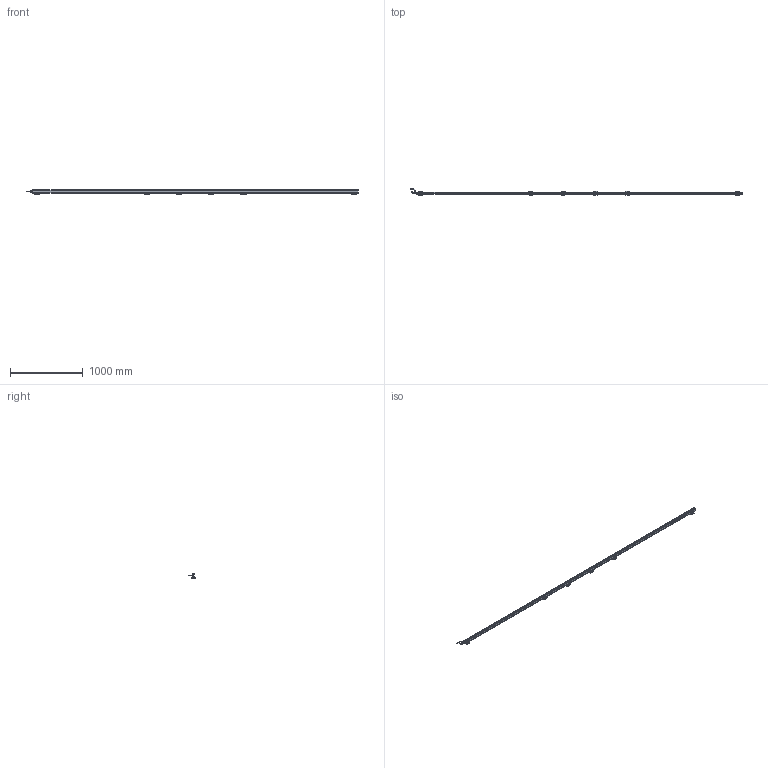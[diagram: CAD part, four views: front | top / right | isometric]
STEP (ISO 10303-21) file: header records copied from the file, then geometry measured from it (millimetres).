
FILE_DESCRIPTION(('Bauteilbeschreibung','HiCAD-Model','HiCAD-STEP-TRANSLATION','Bauteilbeschreibung'),'2;1');
FILE_NAME('PERFORMAXIQEASY_4410-4500_3D.STP','2014-03-05T13:42:16+00:00',('Konstrukteur'),('Konstrukteur Firma GmbH'),' HiCAD 2011, Step 1600.0 ','HiCAD 2011','confidential');
FILE_SCHEMA(('AUTOMOTIVE_DESIGN { 1 2 10303 214 0 1 1 1 }'));
Products named in the file (56): PERFORMAXIQEASY_4410_4500_3D; A_PERFORMAX IQ EASY 4410_4500; A_PERFORMAX IQ EASY SPEED; A_CAP DE; A_CAP CE_5; LED_2C_3MM; LED02C03MM; A519020315_CONNECTOR APPLIANCE; A_INSERT; A_CONTACTS; A_HOUSING; A_PROFILE; A_POTTING; PIN; PIN0; A532000100_BRACKET BARS_ MOUNT; A_SIDE PIECE; A0SIDE0PIECE; A_BRACKET SMALL; A_SLIDE PIECE; A5320001000BRACKET0BARS00MOUNT; A0SIDE0PIECE0; A0SIDE0PIECE1; A0BRACKET0SMALL; A0SLIDE0PIECE; A5320001000BRACKET0BARS00MOUNT0; A0SIDE0PIECE2; A0SIDE0PIECE3; A0BRACKET0SMALL0; A0SLIDE0PIECE0; A0SIDE0PIECE4; A0SIDE0PIECE5; A0BRACKET0SMALL1; A0SLIDE0PIECE1; A0SIDE0PIECE6; A0SIDE0PIECE7; A0BRACKET0SMALL2; A0SLIDE0PIECE2; A0SIDE0PIECE8; A0SIDE0PIECE9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
Assembly tree (55 placements, depth 5):
  PERFORMAXIQEASY_4410_4500_3D
    A_PERFORMAX IQ EASY 4410_4500
      A_PERFORMAX IQ EASY SPEED
        A_CAP DE
        A_CAP CE_5
        LED_2C_3MM
        LED02C03MM
        A519020315_CONNECTOR APPLIANCE
          A_INSERT
          A_CONTACTS
          A_HOUSING
        A_PROFILE
        A_POTTING
        PIN
        PIN0
      A532000100_BRACKET BARS_ MOUNT
        A_SIDE PIECE
        A0SIDE0PIECE
        A_BRACKET SMALL
        A_SLIDE PIECE
      A5320001000BRACKET0BARS00MOUNT
        A0SIDE0PIECE0
        A0SIDE0PIECE1
        A0BRACKET0SMALL
        A0SLIDE0PIECE
      A5320001000BRACKET0BARS00MOUNT0
        A0SIDE0PIECE2
        A0SIDE0PIECE3
        A0BRACKET0SMALL0
        A0SLIDE0PIECE0
      A5320001000BRACKET0BARS00MOUNT0
        A0SIDE0PIECE4
        A0SIDE0PIECE5
        A0BRACKET0SMALL1
        A0SLIDE0PIECE1
      A5320001000BRACKET0BARS00MOUNT0
        A0SIDE0PIECE6
        A0SIDE0PIECE7
        A0BRACKET0SMALL2
        A0SLIDE0PIECE2
      A5320001000BRACKET0BARS00MOUNT0
        A0SIDE0PIECE8
        A0SIDE0PIECE9
        A0BRACKET0SMALL3
        A0SLIDE0PIECE3
      A_CONNECTOR STRAIGHT
        EXTRUDED SOLID_0
        DRAAD GEBOGEN
        REVOLVED SOLID_1
        REVOLVED SOLID_3
      A_CONNECTOR ANGLED
        REVOLVED0SOLID01
        EXTRUDED0SOLID00
        C_EDGE SWEEP_0
        REVOLVED SOLID_2
        REVOLVED0SOLID03
Bounding box: 4577.89 x 84.24 x 63.13 mm (x, y, z)
Volume: 4616337.6 mm3; surface area: 1104644.1 mm2
Topology: 49 solids, 49 shells, 4983 faces, 12800 edges, 7585 vertices
Faces by surface type: cylinder 2137, plane 1879, sphere 332, torus 299, bspline 248, cone 88
Full cylindrical faces by diameter (mm): 0.8 x10, 1 x5, 2.387 x12, 3 x27, 3.1 x1, 4.2 x2, 5 x4, 5.5 x30, 8 x2, 8.2 x1, 8.4 x2, 8.945 x1, 9 x2, 10.2 x1, 10.5 x3, 11 x1, 12 x3, 12.8 x1, 13.8 x4, 14.5 x3
Entity records: 231105 total; most frequent: CARTESIAN_POINT 54548, DIRECTION 24777, ORIENTED_EDGE 24320, EDGE_CURVE 12160, COLOUR_RGB 11541, PRESENTATION_STYLE_ASSIGNMENT 11541, OVER_RIDING_STYLED_ITEM 11497, CURVE_STYLE 11492
